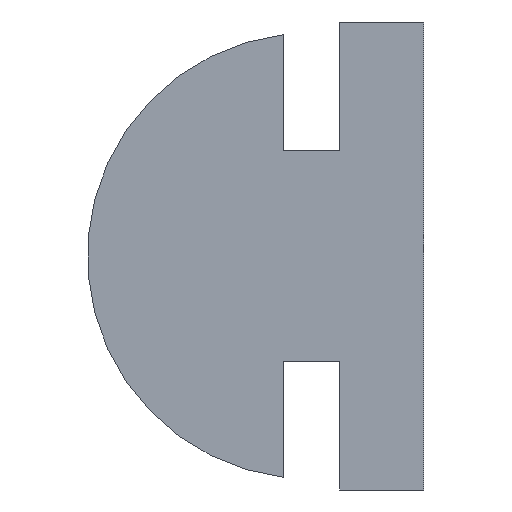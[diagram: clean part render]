
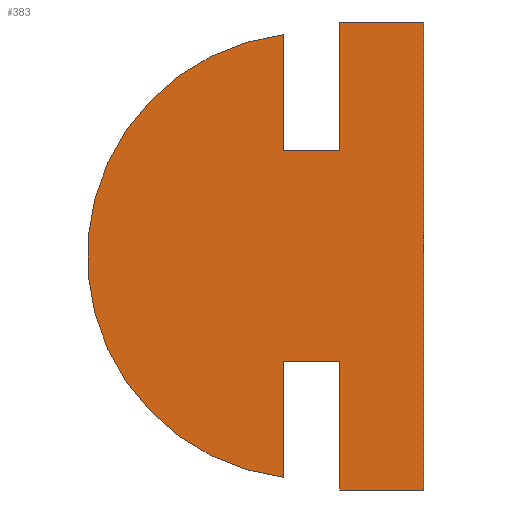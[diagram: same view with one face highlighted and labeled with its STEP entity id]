
A CAD part, left-side view. The second image highlights one B-rep face of the part: STEP entity #383.
In plain terms, the highlighted planar face has unit normal (-1, 0, 0).
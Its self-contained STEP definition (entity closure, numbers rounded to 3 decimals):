
#1 = LINE ( 'NONE', #112, #15 ) ;
#15 = VECTOR ( 'NONE', #271, 1000. ) ;
#17 = CARTESIAN_POINT ( 'NONE',  ( 0., 5., 7.9 ) ) ;
#18 = CARTESIAN_POINT ( 'NONE',  ( 0., 3., 8.35 ) ) ;
#31 = DIRECTION ( 'NONE',  ( 0., 0., 1. ) ) ;
#47 = CARTESIAN_POINT ( 'NONE',  ( 0., 5., -7.9 ) ) ;
#48 = DIRECTION ( 'NONE',  ( 0., -1., 0. ) ) ;
#67 = VERTEX_POINT ( 'NONE', #207 ) ;
#74 = VERTEX_POINT ( 'NONE', #17 ) ;
#75 = DIRECTION ( 'NONE',  ( 0., 0., -1. ) ) ;
#77 = VERTEX_POINT ( 'NONE', #144 ) ;
#78 = CARTESIAN_POINT ( 'NONE',  ( 0., 3., -3.75 ) ) ;
#80 = CARTESIAN_POINT ( 'NONE',  ( 0., 0., -8.35 ) ) ;
#82 = CARTESIAN_POINT ( 'NONE',  ( 0., 3., -8.35 ) ) ;
#83 = LINE ( 'NONE', #385, #256 ) ;
#90 = DIRECTION ( 'NONE',  ( 0., 1., 0. ) ) ;
#98 = LINE ( 'NONE', #80, #186 ) ;
#100 = LINE ( 'NONE', #205, #302 ) ;
#104 = VECTOR ( 'NONE', #31, 1000. ) ;
#107 = LINE ( 'NONE', #18, #202 ) ;
#112 = CARTESIAN_POINT ( 'NONE',  ( 0., 0., 8.35 ) ) ;
#116 = VERTEX_POINT ( 'NONE', #310 ) ;
#129 = EDGE_CURVE ( 'NONE', #225, #315, #347, .T. ) ;
#137 = VERTEX_POINT ( 'NONE', #341 ) ;
#138 = AXIS2_PLACEMENT_3D ( 'NONE', #236, #269, #328 ) ;
#141 = EDGE_CURVE ( 'NONE', #74, #67, #257, .T. ) ;
#143 = DIRECTION ( 'NONE',  ( 0., 1., 0. ) ) ;
#144 = CARTESIAN_POINT ( 'NONE',  ( 0., 3., 3.75 ) ) ;
#145 = ORIENTED_EDGE ( 'NONE', *, *, #329, .F. ) ;
#146 = CARTESIAN_POINT ( 'NONE',  ( 0., 0., 8.35 ) ) ;
#148 = DIRECTION ( 'NONE',  ( 0., -1., 0. ) ) ;
#149 = CARTESIAN_POINT ( 'NONE',  ( 0., 5., 3.75 ) ) ;
#153 = ORIENTED_EDGE ( 'NONE', *, *, #279, .F. ) ;
#159 = ORIENTED_EDGE ( 'NONE', *, *, #168, .F. ) ;
#166 = VECTOR ( 'NONE', #143, 1000. ) ;
#168 = EDGE_CURVE ( 'NONE', #216, #225, #98, .T. ) ;
#175 = LINE ( 'NONE', #146, #252 ) ;
#181 = DIRECTION ( 'NONE',  ( 1., 0., 0. ) ) ;
#186 = VECTOR ( 'NONE', #90, 1000. ) ;
#202 = VECTOR ( 'NONE', #389, 1000. ) ;
#204 = AXIS2_PLACEMENT_3D ( 'NONE', #268, #181, #330 ) ;
#205 = CARTESIAN_POINT ( 'NONE',  ( 0., 5., -3.75 ) ) ;
#207 = CARTESIAN_POINT ( 'NONE',  ( 0., 5., 3.75 ) ) ;
#208 = CARTESIAN_POINT ( 'NONE',  ( 0., 3., -3.75 ) ) ;
#214 = DIRECTION ( 'NONE',  ( 0., 0., -1. ) ) ;
#216 = VERTEX_POINT ( 'NONE', #278 ) ;
#220 = FACE_OUTER_BOUND ( 'NONE', #361, .T. ) ;
#225 = VERTEX_POINT ( 'NONE', #301 ) ;
#231 = ORIENTED_EDGE ( 'NONE', *, *, #374, .F. ) ;
#236 = CARTESIAN_POINT ( 'NONE',  ( 0., 4.042, 0. ) ) ;
#252 = VECTOR ( 'NONE', #148, 1000. ) ;
#254 = ORIENTED_EDGE ( 'NONE', *, *, #129, .F. ) ;
#256 = VECTOR ( 'NONE', #48, 1000. ) ;
#257 = LINE ( 'NONE', #149, #392 ) ;
#268 = CARTESIAN_POINT ( 'NONE',  ( 0., 4.042, 0. ) ) ;
#269 = DIRECTION ( 'NONE',  ( 1., 0., 0. ) ) ;
#271 = DIRECTION ( 'NONE',  ( 0., 0., -1. ) ) ;
#278 = CARTESIAN_POINT ( 'NONE',  ( 0., 0., -8.35 ) ) ;
#279 = EDGE_CURVE ( 'NONE', #311, #382, #100, .T. ) ;
#301 = CARTESIAN_POINT ( 'NONE',  ( 0., 3., -8.35 ) ) ;
#302 = VECTOR ( 'NONE', #75, 1000. ) ;
#310 = CARTESIAN_POINT ( 'NONE',  ( 0., 0., 8.35 ) ) ;
#311 = VERTEX_POINT ( 'NONE', #388 ) ;
#312 = EDGE_CURVE ( 'NONE', #77, #137, #107, .T. ) ;
#315 = VERTEX_POINT ( 'NONE', #208 ) ;
#323 = ORIENTED_EDGE ( 'NONE', *, *, #141, .F. ) ;
#326 = LINE ( 'NONE', #78, #166 ) ;
#328 = DIRECTION ( 'NONE',  ( 0., 0., -1. ) ) ;
#329 = EDGE_CURVE ( 'NONE', #382, #74, #334, .T. ) ;
#330 = DIRECTION ( 'NONE',  ( 0., 0., -1. ) ) ;
#334 = CIRCLE ( 'NONE', #204, 7.958 ) ;
#339 = ORIENTED_EDGE ( 'NONE', *, *, #368, .F. ) ;
#341 = CARTESIAN_POINT ( 'NONE',  ( 0., 3., 8.35 ) ) ;
#347 = LINE ( 'NONE', #82, #104 ) ;
#351 = ORIENTED_EDGE ( 'NONE', *, *, #312, .F. ) ;
#357 = EDGE_CURVE ( 'NONE', #116, #216, #1, .T. ) ;
#361 = EDGE_LOOP ( 'NONE', ( #231, #351, #339, #323, #145, #153, #365, #254, #159, #381 ) ) ;
#363 = PLANE ( 'NONE',  #138 ) ;
#365 = ORIENTED_EDGE ( 'NONE', *, *, #401, .F. ) ;
#368 = EDGE_CURVE ( 'NONE', #67, #77, #83, .T. ) ;
#374 = EDGE_CURVE ( 'NONE', #137, #116, #175, .T. ) ;
#381 = ORIENTED_EDGE ( 'NONE', *, *, #357, .F. ) ;
#382 = VERTEX_POINT ( 'NONE', #47 ) ;
#383 = ADVANCED_FACE ( 'NONE', ( #220 ), #363, .F. ) ;
#385 = CARTESIAN_POINT ( 'NONE',  ( 0., 3., 3.75 ) ) ;
#388 = CARTESIAN_POINT ( 'NONE',  ( 0., 5., -3.75 ) ) ;
#389 = DIRECTION ( 'NONE',  ( 0., 0., 1. ) ) ;
#392 = VECTOR ( 'NONE', #214, 1000. ) ;
#401 = EDGE_CURVE ( 'NONE', #315, #311, #326, .T. ) ;
